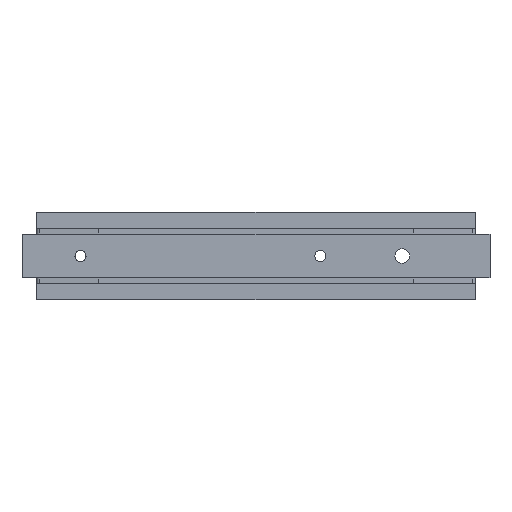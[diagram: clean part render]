
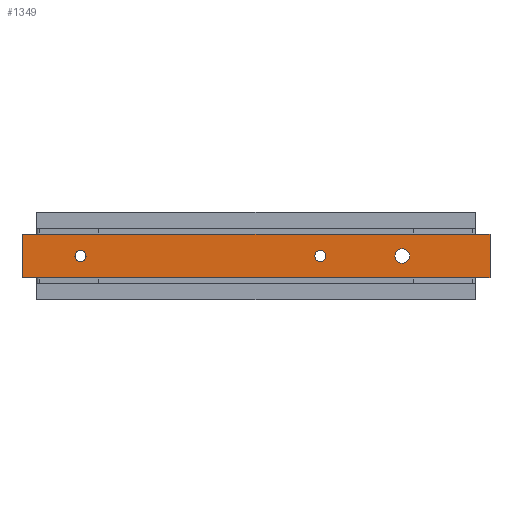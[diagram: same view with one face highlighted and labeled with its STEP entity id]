
A CAD part, front view. The second image highlights one B-rep face of the part: STEP entity #1349.
In plain terms, the highlighted planar face has unit normal (0, -1, 0).
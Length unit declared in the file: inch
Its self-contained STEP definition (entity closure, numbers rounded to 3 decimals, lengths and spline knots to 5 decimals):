
#11 = ORIENTED_EDGE ( 'NONE', *, *, #1189, .F. ) ;
#13 = CIRCLE ( 'NONE', #733, 0.125 ) ;
#28 = VERTEX_POINT ( 'NONE', #1476 ) ;
#36 = CARTESIAN_POINT ( 'NONE',  ( 1., 0., 0.65512 ) ) ;
#47 = VECTOR ( 'NONE', #1406, 39.37008 ) ;
#54 = CARTESIAN_POINT ( 'NONE',  ( 4., 0., 1.125 ) ) ;
#66 = AXIS2_PLACEMENT_3D ( 'NONE', #1159, #1392, #347 ) ;
#81 = PLANE ( 'NONE',  #1168 ) ;
#94 = CARTESIAN_POINT ( 'NONE',  ( 7.75, 0., 1.125 ) ) ;
#124 = ORIENTED_EDGE ( 'NONE', *, *, #588, .T. ) ;
#125 = DIRECTION ( 'NONE',  ( 0., 0., 1. ) ) ;
#132 = VERTEX_POINT ( 'NONE', #1258 ) ;
#144 = CARTESIAN_POINT ( 'NONE',  ( 0.25, 0., 1.125 ) ) ;
#146 = CARTESIAN_POINT ( 'NONE',  ( 7.75, 0., 0.375 ) ) ;
#166 = ORIENTED_EDGE ( 'NONE', *, *, #1204, .T. ) ;
#190 = FACE_BOUND ( 'NONE', #263, .T. ) ;
#201 = DIRECTION ( 'NONE',  ( 0., 1., 0. ) ) ;
#209 = VECTOR ( 'NONE', #1018, 39.37008 ) ;
#215 = CIRCLE ( 'NONE', #1319, 0.125 ) ;
#225 = EDGE_CURVE ( 'NONE', #1155, #872, #582, .T. ) ;
#253 = VERTEX_POINT ( 'NONE', #351 ) ;
#254 = DIRECTION ( 'NONE',  ( 0., 1., 0. ) ) ;
#256 = DIRECTION ( 'NONE',  ( 1., 0., 0. ) ) ;
#257 = CIRCLE ( 'NONE', #855, 0.09488 ) ;
#262 = VECTOR ( 'NONE', #632, 39.37008 ) ;
#263 = EDGE_LOOP ( 'NONE', ( #124, #1505 ) ) ;
#264 = CARTESIAN_POINT ( 'NONE',  ( 6.5, 0., 0.875 ) ) ;
#270 = ORIENTED_EDGE ( 'NONE', *, *, #1462, .T. ) ;
#273 = DIRECTION ( 'NONE',  ( 0., 1., 0. ) ) ;
#288 = LINE ( 'NONE', #54, #683 ) ;
#319 = CARTESIAN_POINT ( 'NONE',  ( 5.0982, 0., 0.75 ) ) ;
#345 = ORIENTED_EDGE ( 'NONE', *, *, #1411, .T. ) ;
#347 = DIRECTION ( 'NONE',  ( 0., 0., 1. ) ) ;
#349 = DIRECTION ( 'NONE',  ( 0., 0., 1. ) ) ;
#351 = CARTESIAN_POINT ( 'NONE',  ( 0.25, 0., 0.375 ) ) ;
#361 = AXIS2_PLACEMENT_3D ( 'NONE', #1254, #201, #674 ) ;
#367 = DIRECTION ( 'NONE',  ( 1., 0., 0. ) ) ;
#368 = CARTESIAN_POINT ( 'NONE',  ( 8., 0., 0.375 ) ) ;
#390 = CARTESIAN_POINT ( 'NONE',  ( 5.0982, 0., 0.84488 ) ) ;
#401 = CARTESIAN_POINT ( 'NONE',  ( 5.0982, 0., 0.65512 ) ) ;
#408 = AXIS2_PLACEMENT_3D ( 'NONE', #319, #562, #349 ) ;
#489 = VECTOR ( 'NONE', #256, 39.37008 ) ;
#509 = CARTESIAN_POINT ( 'NONE',  ( 0.25, 0., 1.125 ) ) ;
#546 = ORIENTED_EDGE ( 'NONE', *, *, #741, .F. ) ;
#547 = LINE ( 'NONE', #1136, #209 ) ;
#562 = DIRECTION ( 'NONE',  ( 0., 1., 0. ) ) ;
#573 = EDGE_CURVE ( 'NONE', #872, #1065, #547, .T. ) ;
#582 = LINE ( 'NONE', #146, #1334 ) ;
#583 = LINE ( 'NONE', #699, #47 ) ;
#588 = EDGE_CURVE ( 'NONE', #1207, #984, #1072, .T. ) ;
#610 = EDGE_CURVE ( 'NONE', #132, #689, #1309, .T. ) ;
#614 = EDGE_CURVE ( 'NONE', #984, #1207, #257, .T. ) ;
#619 = LINE ( 'NONE', #1224, #489 ) ;
#632 = DIRECTION ( 'NONE',  ( -1., 0., 0. ) ) ;
#641 = VERTEX_POINT ( 'NONE', #1176 ) ;
#649 = VERTEX_POINT ( 'NONE', #264 ) ;
#657 = CARTESIAN_POINT ( 'NONE',  ( 0., 0., 0. ) ) ;
#660 = CIRCLE ( 'NONE', #361, 0.09488 ) ;
#674 = DIRECTION ( 'NONE',  ( 0., 0., 1. ) ) ;
#683 = VECTOR ( 'NONE', #1202, 39.37008 ) ;
#689 = VERTEX_POINT ( 'NONE', #1326 ) ;
#699 = CARTESIAN_POINT ( 'NONE',  ( 0.25, 0., 0.375 ) ) ;
#733 = AXIS2_PLACEMENT_3D ( 'NONE', #1091, #273, #763 ) ;
#736 = CIRCLE ( 'NONE', #66, 0.09488 ) ;
#741 = EDGE_CURVE ( 'NONE', #253, #132, #583, .T. ) ;
#761 = VECTOR ( 'NONE', #1000, 39.37008 ) ;
#763 = DIRECTION ( 'NONE',  ( 0., 0., 1. ) ) ;
#769 = FACE_OUTER_BOUND ( 'NONE', #999, .T. ) ;
#778 = FACE_BOUND ( 'NONE', #955, .T. ) ;
#787 = FACE_BOUND ( 'NONE', #1089, .T. ) ;
#797 = VERTEX_POINT ( 'NONE', #94 ) ;
#843 = DIRECTION ( 'NONE',  ( 0., 0., 1. ) ) ;
#855 = AXIS2_PLACEMENT_3D ( 'NONE', #956, #254, #125 ) ;
#859 = DIRECTION ( 'NONE',  ( 0., 0., 1. ) ) ;
#872 = VERTEX_POINT ( 'NONE', #368 ) ;
#886 = CARTESIAN_POINT ( 'NONE',  ( 4., 0., 0.375 ) ) ;
#955 = EDGE_LOOP ( 'NONE', ( #166, #1341 ) ) ;
#956 = CARTESIAN_POINT ( 'NONE',  ( 5.0982, 0., 0.75 ) ) ;
#962 = CARTESIAN_POINT ( 'NONE',  ( 0., 0., 0. ) ) ;
#971 = CARTESIAN_POINT ( 'NONE',  ( 7.75, 0., 0.375 ) ) ;
#972 = EDGE_CURVE ( 'NONE', #641, #649, #215, .T. ) ;
#984 = VERTEX_POINT ( 'NONE', #401 ) ;
#999 = EDGE_LOOP ( 'NONE', ( #1173, #1283, #1009, #1181, #11, #1150, #1051, #546 ) ) ;
#1000 = DIRECTION ( 'NONE',  ( -1., 0., 0. ) ) ;
#1009 = ORIENTED_EDGE ( 'NONE', *, *, #573, .T. ) ;
#1018 = DIRECTION ( 'NONE',  ( 0., 0., 1. ) ) ;
#1051 = ORIENTED_EDGE ( 'NONE', *, *, #610, .F. ) ;
#1065 = VERTEX_POINT ( 'NONE', #1251 ) ;
#1072 = CIRCLE ( 'NONE', #408, 0.09488 ) ;
#1089 = EDGE_LOOP ( 'NONE', ( #270, #345 ) ) ;
#1091 = CARTESIAN_POINT ( 'NONE',  ( 6.5, 0., 0.75 ) ) ;
#1136 = CARTESIAN_POINT ( 'NONE',  ( 8., 0., 0. ) ) ;
#1149 = DIRECTION ( 'NONE',  ( 0., 0., 1. ) ) ;
#1150 = ORIENTED_EDGE ( 'NONE', *, *, #1231, .T. ) ;
#1152 = VERTEX_POINT ( 'NONE', #36 ) ;
#1153 = EDGE_CURVE ( 'NONE', #797, #1065, #619, .T. ) ;
#1155 = VERTEX_POINT ( 'NONE', #971 ) ;
#1159 = CARTESIAN_POINT ( 'NONE',  ( 1., 0., 0.75 ) ) ;
#1168 = AXIS2_PLACEMENT_3D ( 'NONE', #657, #1363, #1149 ) ;
#1173 = ORIENTED_EDGE ( 'NONE', *, *, #1248, .F. ) ;
#1176 = CARTESIAN_POINT ( 'NONE',  ( 6.5, 0., 0.625 ) ) ;
#1181 = ORIENTED_EDGE ( 'NONE', *, *, #1153, .F. ) ;
#1189 = EDGE_CURVE ( 'NONE', #1253, #797, #288, .T. ) ;
#1202 = DIRECTION ( 'NONE',  ( 1., 0., 0. ) ) ;
#1204 = EDGE_CURVE ( 'NONE', #649, #641, #13, .T. ) ;
#1207 = VERTEX_POINT ( 'NONE', #390 ) ;
#1209 = LINE ( 'NONE', #509, #262 ) ;
#1216 = LINE ( 'NONE', #886, #761 ) ;
#1224 = CARTESIAN_POINT ( 'NONE',  ( 7.75, 0., 1.125 ) ) ;
#1231 = EDGE_CURVE ( 'NONE', #1253, #689, #1209, .T. ) ;
#1248 = EDGE_CURVE ( 'NONE', #1155, #253, #1216, .T. ) ;
#1251 = CARTESIAN_POINT ( 'NONE',  ( 8., 0., 1.125 ) ) ;
#1253 = VERTEX_POINT ( 'NONE', #144 ) ;
#1254 = CARTESIAN_POINT ( 'NONE',  ( 1., 0., 0.75 ) ) ;
#1258 = CARTESIAN_POINT ( 'NONE',  ( 0., 0., 0.375 ) ) ;
#1283 = ORIENTED_EDGE ( 'NONE', *, *, #225, .T. ) ;
#1309 = LINE ( 'NONE', #962, #1508 ) ;
#1319 = AXIS2_PLACEMENT_3D ( 'NONE', #1434, #1448, #859 ) ;
#1326 = CARTESIAN_POINT ( 'NONE',  ( 0., 0., 1.125 ) ) ;
#1334 = VECTOR ( 'NONE', #367, 39.37008 ) ;
#1341 = ORIENTED_EDGE ( 'NONE', *, *, #972, .T. ) ;
#1349 = ADVANCED_FACE ( 'NONE', ( #787, #190, #778, #769 ), #81, .F. ) ;
#1363 = DIRECTION ( 'NONE',  ( 0., 1., 0. ) ) ;
#1392 = DIRECTION ( 'NONE',  ( 0., 1., 0. ) ) ;
#1406 = DIRECTION ( 'NONE',  ( -1., 0., 0. ) ) ;
#1411 = EDGE_CURVE ( 'NONE', #1152, #28, #660, .T. ) ;
#1434 = CARTESIAN_POINT ( 'NONE',  ( 6.5, 0., 0.75 ) ) ;
#1448 = DIRECTION ( 'NONE',  ( 0., 1., 0. ) ) ;
#1462 = EDGE_CURVE ( 'NONE', #28, #1152, #736, .T. ) ;
#1476 = CARTESIAN_POINT ( 'NONE',  ( 1., 0., 0.84488 ) ) ;
#1505 = ORIENTED_EDGE ( 'NONE', *, *, #614, .T. ) ;
#1508 = VECTOR ( 'NONE', #843, 39.37008 ) ;
